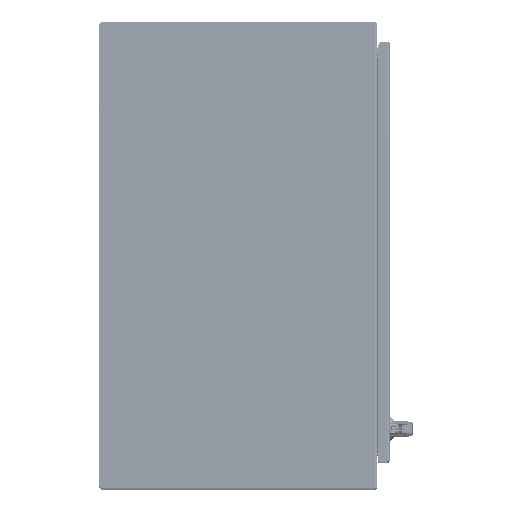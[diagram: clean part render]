
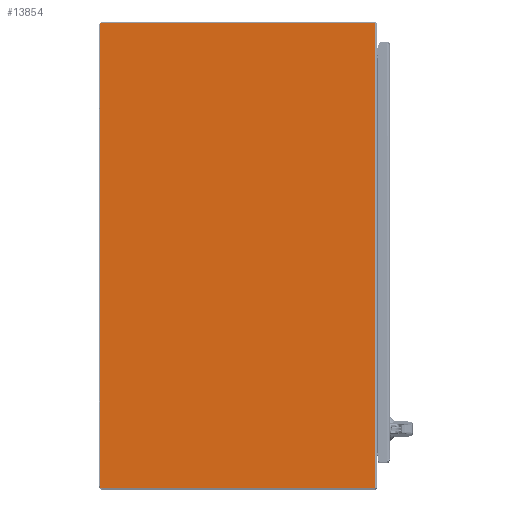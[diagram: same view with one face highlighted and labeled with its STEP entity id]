
A CAD part, top view. The second image highlights one B-rep face of the part: STEP entity #13854.
In plain terms, the highlighted planar face has unit normal (0, 0, 1) as drawn and (0, 1, 0) by its records, which use the part's own axes.
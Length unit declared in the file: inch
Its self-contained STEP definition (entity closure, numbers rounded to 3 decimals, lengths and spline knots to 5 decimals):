
#13069=CARTESIAN_POINT('',(-23.888,0.,-20.013));
#13070=DIRECTION('',(0.,1.,0.));
#13071=DIRECTION('',(0.,0.,-1.));
#13072=AXIS2_PLACEMENT_3D('',#13069,#13070,#13071);
#13077=CARTESIAN_POINT('',(-23.888,0.,20.013));
#13078=DIRECTION('',(0.,1.,0.));
#13079=DIRECTION('',(-1.,0.,0.));
#13080=AXIS2_PLACEMENT_3D('',#13077,#13078,#13079);
#13092=DIRECTION('',(0.,0.,-1.));
#13093=VECTOR('',#13092,40.026);
#13094=CARTESIAN_POINT('',(-23.948,0.,20.013));
#13095=LINE('',#13094,#13093);
#13120=DIRECTION('',(-1.,0.,0.));
#13121=VECTOR('',#13120,23.6415);
#13122=CARTESIAN_POINT('',(-0.2465,0.,20.073));
#13123=LINE('',#13122,#13121);
#13163=DIRECTION('',(0.,0.,1.));
#13164=VECTOR('',#13163,40.146);
#13165=CARTESIAN_POINT('',(-0.2465,0.,-20.073));
#13166=LINE('',#13165,#13164);
#13271=DIRECTION('',(-1.,0.,0.));
#13272=VECTOR('',#13271,23.6415);
#13273=CARTESIAN_POINT('',(-0.2465,0.,-20.073));
#13274=LINE('',#13273,#13272);
#13739=CARTESIAN_POINT('',(-0.2465,0.,20.073));
#13740=VERTEX_POINT('',#13739);
#13741=CARTESIAN_POINT('',(-0.2465,0.,-20.073));
#13742=VERTEX_POINT('',#13741);
#13767=CARTESIAN_POINT('',(-23.888,0.,-20.073));
#13768=CARTESIAN_POINT('',(-23.948,0.,-20.013));
#13769=VERTEX_POINT('',#13767);
#13770=VERTEX_POINT('',#13768);
#13775=CARTESIAN_POINT('',(-23.948,0.,20.013));
#13776=CARTESIAN_POINT('',(-23.888,0.,20.073));
#13777=VERTEX_POINT('',#13775);
#13778=VERTEX_POINT('',#13776);
#13835=CARTESIAN_POINT('',(0.,0.,20.073));
#13836=DIRECTION('',(0.,1.,0.));
#13837=DIRECTION('',(-1.,0.,0.));
#13838=AXIS2_PLACEMENT_3D('',#13835,#13836,#13837);
#13839=PLANE('',#13838);
#13841=ORIENTED_EDGE('',*,*,#13840,.F.);
#13843=ORIENTED_EDGE('',*,*,#13842,.F.);
#13845=ORIENTED_EDGE('',*,*,#13844,.T.);
#13847=ORIENTED_EDGE('',*,*,#13846,.T.);
#13849=ORIENTED_EDGE('',*,*,#13848,.F.);
#13851=ORIENTED_EDGE('',*,*,#13850,.T.);
#13852=EDGE_LOOP('',(#13841,#13843,#13845,#13847,#13849,#13851));
#13853=FACE_OUTER_BOUND('',#13852,.F.);
#13073=CIRCLE('',#13072,0.06);
#13081=CIRCLE('',#13080,0.06);
#13840=EDGE_CURVE('',#13769,#13770,#13073,.T.);
#13842=EDGE_CURVE('',#13742,#13769,#13274,.T.);
#13844=EDGE_CURVE('',#13742,#13740,#13166,.T.);
#13846=EDGE_CURVE('',#13740,#13778,#13123,.T.);
#13848=EDGE_CURVE('',#13777,#13778,#13081,.T.);
#13850=EDGE_CURVE('',#13777,#13770,#13095,.T.);
#13854=ADVANCED_FACE('',(#13853),#13839,.T.);
